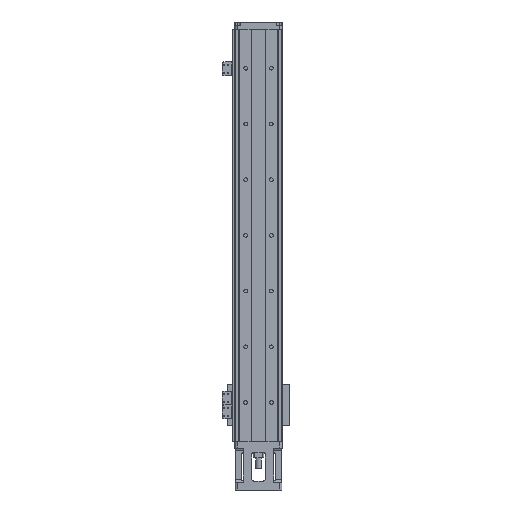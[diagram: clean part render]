
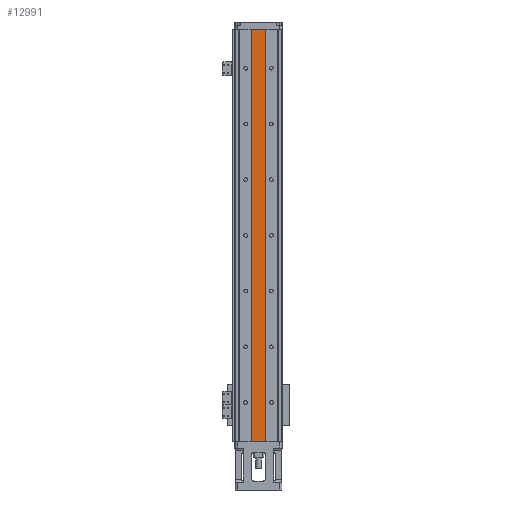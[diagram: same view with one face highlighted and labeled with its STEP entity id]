
A CAD part, front view. The second image highlights one B-rep face of the part: STEP entity #12991.
In plain terms, the highlighted planar face has unit normal (0, -1, 0).
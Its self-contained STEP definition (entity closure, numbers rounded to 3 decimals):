
#460 = ORIENTED_EDGE ( 'NONE', *, *, #4701, .F. ) ;
#2181 = PLANE ( 'NONE',  #6659 ) ;
#2369 = DIRECTION ( 'NONE',  ( 0., 0., 1. ) ) ;
#3947 = EDGE_LOOP ( 'NONE', ( #460, #22081, #6678, #21162 ) ) ;
#4701 = EDGE_CURVE ( 'NONE', #13086, #10696, #15092, .T. ) ;
#5192 = EDGE_CURVE ( 'NONE', #10696, #15192, #9700, .T. ) ;
#6009 = LINE ( 'NONE', #20575, #7357 ) ;
#6659 = AXIS2_PLACEMENT_3D ( 'NONE', #25971, #11022, #2369 ) ;
#6678 = ORIENTED_EDGE ( 'NONE', *, *, #14054, .F. ) ;
#7180 = DIRECTION ( 'NONE',  ( -1., 0., 0. ) ) ;
#7238 = CARTESIAN_POINT ( 'NONE',  ( -12.269, -13.462, 740. ) ) ;
#7357 = VECTOR ( 'NONE', #9598, 1000. ) ;
#7363 = CARTESIAN_POINT ( 'NONE',  ( 11.731, -13.462, 0. ) ) ;
#9598 = DIRECTION ( 'NONE',  ( 0., 0., -1. ) ) ;
#9700 = LINE ( 'NONE', #10065, #19428 ) ;
#10065 = CARTESIAN_POINT ( 'NONE',  ( -12.269, -13.462, 740. ) ) ;
#10696 = VERTEX_POINT ( 'NONE', #19256 ) ;
#11022 = DIRECTION ( 'NONE',  ( 0., 1., 0. ) ) ;
#12245 = VECTOR ( 'NONE', #7180, 1000. ) ;
#12561 = LINE ( 'NONE', #17772, #12245 ) ;
#12991 = ADVANCED_FACE ( 'NONE', ( #22186 ), #2181, .F. ) ;
#13086 = VERTEX_POINT ( 'NONE', #15543 ) ;
#13764 = VECTOR ( 'NONE', #22217, 1000. ) ;
#14054 = EDGE_CURVE ( 'NONE', #15192, #27675, #6009, .T. ) ;
#15092 = LINE ( 'NONE', #7238, #13764 ) ;
#15192 = VERTEX_POINT ( 'NONE', #15251 ) ;
#15251 = CARTESIAN_POINT ( 'NONE',  ( 11.731, -13.462, 740. ) ) ;
#15543 = CARTESIAN_POINT ( 'NONE',  ( -12.269, -13.462, 0. ) ) ;
#17772 = CARTESIAN_POINT ( 'NONE',  ( -12.269, -13.462, 0. ) ) ;
#18438 = EDGE_CURVE ( 'NONE', #27675, #13086, #12561, .T. ) ;
#19256 = CARTESIAN_POINT ( 'NONE',  ( -12.269, -13.462, 740. ) ) ;
#19428 = VECTOR ( 'NONE', #25086, 1000. ) ;
#20575 = CARTESIAN_POINT ( 'NONE',  ( 11.731, -13.462, 740. ) ) ;
#21162 = ORIENTED_EDGE ( 'NONE', *, *, #5192, .F. ) ;
#22081 = ORIENTED_EDGE ( 'NONE', *, *, #18438, .F. ) ;
#22186 = FACE_OUTER_BOUND ( 'NONE', #3947, .T. ) ;
#22217 = DIRECTION ( 'NONE',  ( 0., 0., 1. ) ) ;
#25086 = DIRECTION ( 'NONE',  ( 1., 0., 0. ) ) ;
#25971 = CARTESIAN_POINT ( 'NONE',  ( -12.269, -13.462, 740. ) ) ;
#27675 = VERTEX_POINT ( 'NONE', #7363 ) ;
